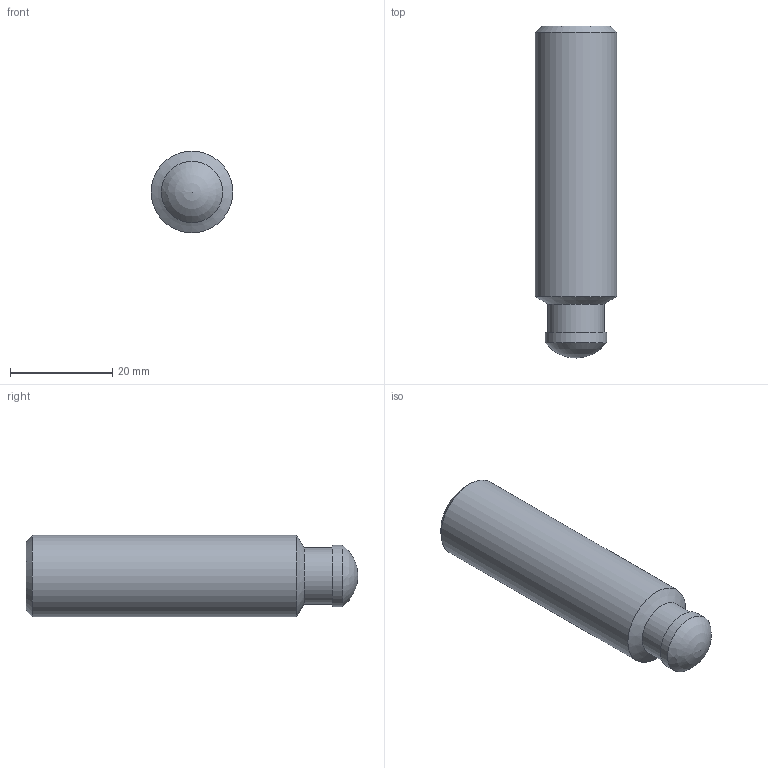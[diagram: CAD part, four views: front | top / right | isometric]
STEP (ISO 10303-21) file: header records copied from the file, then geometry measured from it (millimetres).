
FILE_DESCRIPTION( ( 'STEP AP203' ), '1' );
FILE_NAME( 'C:/Temp/Ganter_Step_05_03_2020/data/3_2/din6332/din6332_zb/Grub screw DIN 6332-M16-65-SKN-ZB.stp', '2020-03-13T05:16:37', ( 'License CC BY-ND 4.0' ), ( 'CADENAS' ), ' ', 'PARTsolutions', ' ' );
FILE_SCHEMA( ( 'CONFIG_CONTROL_DESIGN' ) );
Length unit declared in the file: millimetre
Products named in the file (1): _Grub screw DIN 6332-M16-65-SKN-ZB
Bounding box: 16 x 65 x 16 mm (x, y, z)
Volume: 11518 mm3; surface area: 3501 mm2
Topology: 1 solids, 1 shells, 15 faces, 33 edges, 21 vertices
Faces by surface type: plane 9, cylinder 3, cone 2, sphere 1
Full cylindrical faces by diameter (mm): 11 x1, 12 x1, 16 x1
Entity records: 410 total; most frequent: DIRECTION 64, CARTESIAN_POINT 61, ORIENTED_EDGE 50, EDGE_CURVE 25, AXIS2_PLACEMENT_3D 23, EDGE_LOOP 22, VERTEX_POINT 20, FACE_OUTER_BOUND 18
